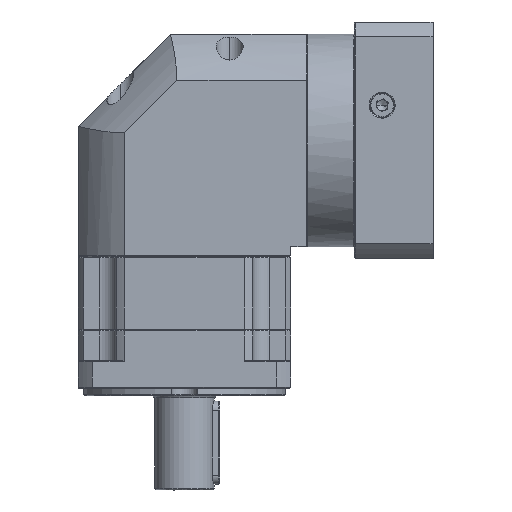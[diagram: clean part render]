
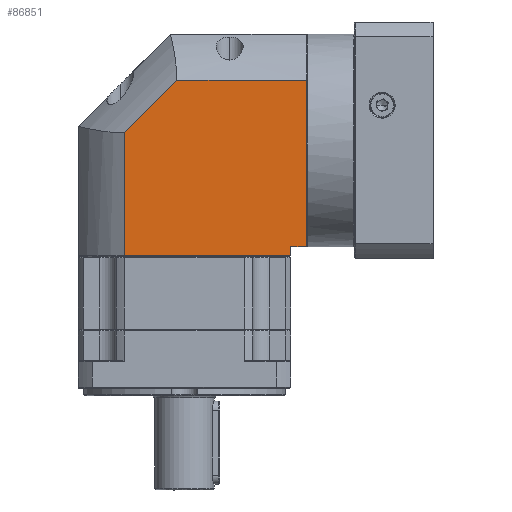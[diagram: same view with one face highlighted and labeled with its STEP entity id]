
A CAD part, front view. The second image highlights one B-rep face of the part: STEP entity #86851.
In plain terms, the highlighted planar face has unit normal (0, -1, 0).
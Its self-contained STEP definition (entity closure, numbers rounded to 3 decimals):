
#1280 = EDGE_CURVE ( 'NONE', #134151, #130584, #80268, .T. ) ;
#3525 = EDGE_CURVE ( 'NONE', #130584, #66705, #102294, .T. ) ;
#4627 = ORIENTED_EDGE ( 'NONE', *, *, #94081, .F. ) ;
#11162 = VECTOR ( 'NONE', #77976, 1000. ) ;
#11412 = VECTOR ( 'NONE', #128615, 1000. ) ;
#12047 = DIRECTION ( 'NONE',  ( 0., 0., 1. ) ) ;
#12084 = PLANE ( 'NONE',  #127456 ) ;
#14106 = EDGE_CURVE ( 'NONE', #93060, #103641, #71413, .T. ) ;
#18478 = DIRECTION ( 'NONE',  ( -1., 0., 0. ) ) ;
#20641 = LINE ( 'NONE', #87567, #73945 ) ;
#22204 = CARTESIAN_POINT ( 'NONE',  ( 103.149, 0.231, 28.534 ) ) ;
#22791 = CARTESIAN_POINT ( 'NONE',  ( 4.849, 0.231, -66.365 ) ) ;
#24618 = CARTESIAN_POINT ( 'NONE',  ( 4.849, 0.231, 0.196 ) ) ;
#28781 = DIRECTION ( 'NONE',  ( 0.707, 0., 0.707 ) ) ;
#30629 = DIRECTION ( 'NONE',  ( 0., 0., -1. ) ) ;
#34121 = EDGE_LOOP ( 'NONE', ( #133906, #77179, #95964, #4627, #89022, #47632, #101990 ) ) ;
#47632 = ORIENTED_EDGE ( 'NONE', *, *, #1280, .F. ) ;
#49804 = CARTESIAN_POINT ( 'NONE',  ( 4.849, 0.231, 0.196 ) ) ;
#51174 = CARTESIAN_POINT ( 'NONE',  ( -20.251, 0.231, -66.365 ) ) ;
#63432 = VERTEX_POINT ( 'NONE', #101061 ) ;
#64702 = CARTESIAN_POINT ( 'NONE',  ( 4.849, 0.231, -72.865 ) ) ;
#66705 = VERTEX_POINT ( 'NONE', #115068 ) ;
#67130 = EDGE_CURVE ( 'NONE', #103641, #63432, #109226, .T. ) ;
#71413 = LINE ( 'NONE', #75547, #11412 ) ;
#73945 = VECTOR ( 'NONE', #86646, 1000. ) ;
#75294 = VECTOR ( 'NONE', #12047, 1000. ) ;
#75547 = CARTESIAN_POINT ( 'NONE',  ( -20.251, 0.231, -61.365 ) ) ;
#75712 = FACE_OUTER_BOUND ( 'NONE', #34121, .T. ) ;
#77179 = ORIENTED_EDGE ( 'NONE', *, *, #14106, .F. ) ;
#77976 = DIRECTION ( 'NONE',  ( 1., 0., 0. ) ) ;
#78236 = CARTESIAN_POINT ( 'NONE',  ( 103.149, 0.231, -61.365 ) ) ;
#80268 = LINE ( 'NONE', #64702, #75294 ) ;
#85490 = EDGE_CURVE ( 'NONE', #63432, #134151, #119542, .T. ) ;
#86614 = DIRECTION ( 'NONE',  ( 0., 1., 0. ) ) ;
#86646 = DIRECTION ( 'NONE',  ( 0., 0., -1. ) ) ;
#86851 = ADVANCED_FACE ( 'NONE', ( #75712 ), #12084, .F. ) ;
#87567 = CARTESIAN_POINT ( 'NONE',  ( 103.149, 0.231, -72.865 ) ) ;
#89022 = ORIENTED_EDGE ( 'NONE', *, *, #3525, .F. ) ;
#93060 = VERTEX_POINT ( 'NONE', #78236 ) ;
#93565 = VERTEX_POINT ( 'NONE', #22204 ) ;
#94081 = EDGE_CURVE ( 'NONE', #66705, #93565, #134527, .T. ) ;
#94534 = VECTOR ( 'NONE', #18478, 1000. ) ;
#95934 = CARTESIAN_POINT ( 'NONE',  ( -20.251, 0.231, -72.865 ) ) ;
#95964 = ORIENTED_EDGE ( 'NONE', *, *, #99447, .F. ) ;
#97290 = DIRECTION ( 'NONE',  ( 1., 0., 0. ) ) ;
#99405 = CARTESIAN_POINT ( 'NONE',  ( -20.251, 0.231, 28.534 ) ) ;
#99447 = EDGE_CURVE ( 'NONE', #93565, #93060, #20641, .T. ) ;
#101061 = CARTESIAN_POINT ( 'NONE',  ( 94.749, 0.231, -66.365 ) ) ;
#101990 = ORIENTED_EDGE ( 'NONE', *, *, #85490, .F. ) ;
#102294 = LINE ( 'NONE', #49804, #132154 ) ;
#103641 = VERTEX_POINT ( 'NONE', #137766 ) ;
#109226 = LINE ( 'NONE', #116261, #132567 ) ;
#115068 = CARTESIAN_POINT ( 'NONE',  ( 33.188, 0.231, 28.534 ) ) ;
#116261 = CARTESIAN_POINT ( 'NONE',  ( 94.749, 0.231, -72.865 ) ) ;
#119542 = LINE ( 'NONE', #51174, #94534 ) ;
#127456 = AXIS2_PLACEMENT_3D ( 'NONE', #95934, #86614, #97290 ) ;
#128615 = DIRECTION ( 'NONE',  ( -1., 0., 0. ) ) ;
#130584 = VERTEX_POINT ( 'NONE', #24618 ) ;
#132154 = VECTOR ( 'NONE', #28781, 1000. ) ;
#132567 = VECTOR ( 'NONE', #30629, 1000. ) ;
#133906 = ORIENTED_EDGE ( 'NONE', *, *, #67130, .F. ) ;
#134151 = VERTEX_POINT ( 'NONE', #22791 ) ;
#134527 = LINE ( 'NONE', #99405, #11162 ) ;
#137766 = CARTESIAN_POINT ( 'NONE',  ( 94.749, 0.231, -61.365 ) ) ;
